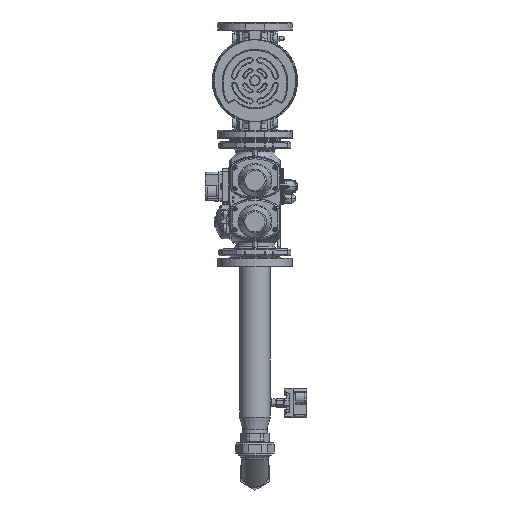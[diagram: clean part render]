
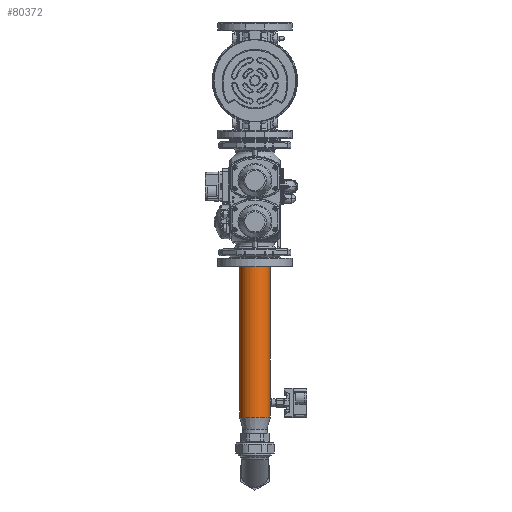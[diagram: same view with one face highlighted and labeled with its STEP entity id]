
A CAD part, front view. The second image highlights one B-rep face of the part: STEP entity #80372.
In plain terms, the highlighted cylindrical face has radius 38.05 mm (diameter 76.1 mm), a full revolution.
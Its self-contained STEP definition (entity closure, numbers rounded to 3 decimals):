
#4587 = CARTESIAN_POINT ( 'NONE',  ( 37.917, -141.819, -507.439 ) ) ;
#7087 = CARTESIAN_POINT ( 'NONE',  ( 38.047, -144.476, -501.026 ) ) ;
#9594 = CARTESIAN_POINT ( 'NONE',  ( 37.892, -148.472, -507.004 ) ) ;
#12061 = CARTESIAN_POINT ( 'NONE',  ( 37.931, -148.014, -507.642 ) ) ;
#14596 = CARTESIAN_POINT ( 'NONE',  ( 38.029, -143.708, -508.795 ) ) ;
#23014 = FACE_OUTER_BOUND ( 'NONE', #204737, .T. ) ;
#39659 = DIRECTION ( 'NONE',  ( 0., -1., 0. ) ) ;
#45442 = CARTESIAN_POINT ( 'NONE',  ( 37.839, -149., -504.74 ) ) ;
#47958 = CARTESIAN_POINT ( 'NONE',  ( 38.047, -145.527, -508.974 ) ) ;
#52941 = CARTESIAN_POINT ( 'NONE',  ( 37.842, -141.026, -505.526 ) ) ;
#63859 = DIRECTION ( 'NONE',  ( 0., -1., 0. ) ) ;
#77526 = ORIENTED_EDGE ( 'NONE', *, *, #436183, .T. ) ;
#80372 = ADVANCED_FACE ( 'NONE', ( #444570, #23014, #94648 ), #485433, .T. ) ;
#80660 = AXIS2_PLACEMENT_3D ( 'NONE', #291090, #334627, #63859 ) ;
#83736 = CARTESIAN_POINT ( 'NONE',  ( 37.917, -141.822, -502.557 ) ) ;
#84354 = CARTESIAN_POINT ( 'NONE',  ( 38.05, -145., -501. ) ) ;
#86277 = CARTESIAN_POINT ( 'NONE',  ( 37.931, -141.988, -502.355 ) ) ;
#91284 = CARTESIAN_POINT ( 'NONE',  ( 38.029, -146.292, -508.794 ) ) ;
#94648 = FACE_OUTER_BOUND ( 'NONE', #457021, .T. ) ;
#106408 = CARTESIAN_POINT ( 'NONE',  ( 37.959, -147.643, -501.986 ) ) ;
#106942 = CARTESIAN_POINT ( 'NONE',  ( 0., -145., -539.957 ) ) ;
#112324 = ORIENTED_EDGE ( 'NONE', *, *, #455287, .T. ) ;
#118334 = VERTEX_POINT ( 'NONE', #278852 ) ;
#122238 = CARTESIAN_POINT ( 'NONE',  ( 37.972, -142.558, -508.179 ) ) ;
#122808 = CARTESIAN_POINT ( 'NONE',  ( 0., -145., -155. ) ) ;
#124718 = CARTESIAN_POINT ( 'NONE',  ( 37.86, -141.205, -506.291 ) ) ;
#127232 = CARTESIAN_POINT ( 'NONE',  ( 37.853, -148.872, -506.038 ) ) ;
#129715 = CARTESIAN_POINT ( 'NONE',  ( 37.839, -141., -504.737 ) ) ;
#132204 = CARTESIAN_POINT ( 'NONE',  ( 37.998, -147.006, -508.47 ) ) ;
#142258 = CARTESIAN_POINT ( 'NONE',  ( 37.931, -148.016, -502.36 ) ) ;
#158406 = DIRECTION ( 'NONE',  ( 0., 0., -1. ) ) ;
#162882 = CARTESIAN_POINT ( 'NONE',  ( 37.958, -147.646, -508.011 ) ) ;
#165364 = CARTESIAN_POINT ( 'NONE',  ( 37.853, -141.129, -503.959 ) ) ;
#167836 = CARTESIAN_POINT ( 'NONE',  ( 37.853, -148.872, -503.962 ) ) ;
#170358 = CARTESIAN_POINT ( 'NONE',  ( 37.86, -148.795, -506.29 ) ) ;
#183530 = VERTEX_POINT ( 'NONE', #454442 ) ;
#189223 = CIRCLE ( 'NONE', #319731, 38.05 ) ;
#201167 = CARTESIAN_POINT ( 'NONE',  ( 37.998, -142.997, -501.528 ) ) ;
#201788 = VERTEX_POINT ( 'NONE', #84354 ) ;
#203679 = CARTESIAN_POINT ( 'NONE',  ( 37.958, -142.356, -501.987 ) ) ;
#204737 = EDGE_LOOP ( 'NONE', ( #112324 ) ) ;
#206172 = CARTESIAN_POINT ( 'NONE',  ( 38.05, -145., -501. ) ) ;
#208672 = CARTESIAN_POINT ( 'NONE',  ( 37.931, -141.988, -507.645 ) ) ;
#211219 = CARTESIAN_POINT ( 'NONE',  ( 37.842, -141.026, -504.476 ) ) ;
#216208 = CARTESIAN_POINT ( 'NONE',  ( 38.009, -146.775, -501.406 ) ) ;
#218739 = CARTESIAN_POINT ( 'NONE',  ( 38.05, -145., -501. ) ) ;
#225122 = EDGE_CURVE ( 'NONE', #118334, #118334, #189223, .T. ) ;
#239481 = CARTESIAN_POINT ( 'NONE',  ( 38.05, -145.267, -509. ) ) ;
#241990 = CARTESIAN_POINT ( 'NONE',  ( 38.05, -144.739, -509. ) ) ;
#244479 = CARTESIAN_POINT ( 'NONE',  ( 37.842, -148.975, -505.522 ) ) ;
#246928 = CARTESIAN_POINT ( 'NONE',  ( 37.88, -141.406, -506.775 ) ) ;
#251971 = CARTESIAN_POINT ( 'NONE',  ( 37.998, -147.009, -501.531 ) ) ;
#259490 = CARTESIAN_POINT ( 'NONE',  ( 38.037, -146.042, -501.129 ) ) ;
#261974 = CARTESIAN_POINT ( 'NONE',  ( 38.029, -146.291, -501.205 ) ) ;
#277708 = CARTESIAN_POINT ( 'NONE',  ( 38.05, -144.736, -501. ) ) ;
#278852 = CARTESIAN_POINT ( 'NONE',  ( 0., -183.05, -155. ) ) ;
#280224 = CARTESIAN_POINT ( 'NONE',  ( 37.959, -142.357, -508.013 ) ) ;
#282742 = CARTESIAN_POINT ( 'NONE',  ( 38.047, -144.477, -508.974 ) ) ;
#287747 = CARTESIAN_POINT ( 'NONE',  ( 38.009, -146.776, -508.593 ) ) ;
#290276 = CARTESIAN_POINT ( 'NONE',  ( 38.05, -145.264, -501. ) ) ;
#291090 = CARTESIAN_POINT ( 'NONE',  ( 0., -145., -155. ) ) ;
#311664 = DIRECTION ( 'NONE',  ( 0., -1., 0. ) ) ;
#316122 = CARTESIAN_POINT ( 'NONE',  ( 38.037, -143.964, -501.128 ) ) ;
#318632 = CARTESIAN_POINT ( 'NONE',  ( 37.842, -148.974, -504.475 ) ) ;
#319731 = AXIS2_PLACEMENT_3D ( 'NONE', #122808, #158406, #311664 ) ;
#321175 = CARTESIAN_POINT ( 'NONE',  ( 37.972, -147.44, -508.18 ) ) ;
#323674 = CARTESIAN_POINT ( 'NONE',  ( 38.029, -143.71, -501.205 ) ) ;
#326210 = CARTESIAN_POINT ( 'NONE',  ( 37.88, -141.405, -503.226 ) ) ;
#334627 = DIRECTION ( 'NONE',  ( 0., 0., 1. ) ) ;
#339338 = CIRCLE ( 'NONE', #372167, 38.05 ) ;
#351310 = DIRECTION ( 'NONE',  ( 0., 0., 1. ) ) ;
#357058 = CARTESIAN_POINT ( 'NONE',  ( 37.86, -141.206, -503.707 ) ) ;
#359560 = CARTESIAN_POINT ( 'NONE',  ( 37.892, -141.529, -507.005 ) ) ;
#362075 = CARTESIAN_POINT ( 'NONE',  ( 38.009, -143.226, -501.405 ) ) ;
#364552 = CARTESIAN_POINT ( 'NONE',  ( 37.839, -141., -505.266 ) ) ;
#367094 = CARTESIAN_POINT ( 'NONE',  ( 37.972, -147.441, -501.821 ) ) ;
#372167 = AXIS2_PLACEMENT_3D ( 'NONE', #106942, #351310, #39659 ) ;
#395389 = CARTESIAN_POINT ( 'NONE',  ( 37.88, -148.596, -506.771 ) ) ;
#396631 = B_SPLINE_CURVE_WITH_KNOTS ( 'NONE', 3,
 ( #206172, #277708, #7087, #316122, #323674, #362075, #201167, #433803, #203679, #86277, #83736, #472084, #326210, #357058, #165364, #211219, #129715, #364552, #52941, #477074, #124718, #246928, #359560, #4587, #208672, #280224, #122238, #397907, #482101, #14596, #443782, #282742, #241990, #239481, #47958, #441277, #91284, #287747, #132204, #321175, #162882, #12061, #436297, #9594, #395389, #170358, #127232, #244479, #402948, #45442, #318632, #167836, #474596, #438788, #487138, #494674, #142258, #106408, #367094, #251971, #216208, #261974, #259490, #418075, #290276, #218739 ),
 .UNSPECIFIED., .T., .F.,
 ( 4, 2, 2, 2, 2, 2, 2, 2, 2, 2, 2, 2, 2, 2, 2, 2, 2, 2, 2, 2, 2, 2, 2, 2, 2, 2, 2, 2, 2, 2, 2, 2, 4 ),
 ( 0., 0.001, 0.002, 0.002, 0.003, 0.004, 0.005, 0.005, 0.006, 0.007, 0.008, 0.009, 0.009, 0.01, 0.011, 0.012, 0.013, 0.013, 0.014, 0.015, 0.016, 0.016, 0.017, 0.018, 0.019, 0.02, 0.02, 0.021, 0.022, 0.023, 0.023, 0.024, 0.025 ),
 .UNSPECIFIED. ) ;
#397907 = CARTESIAN_POINT ( 'NONE',  ( 37.998, -142.995, -508.471 ) ) ;
#402948 = CARTESIAN_POINT ( 'NONE',  ( 37.839, -149., -505.262 ) ) ;
#418075 = CARTESIAN_POINT ( 'NONE',  ( 38.047, -145.529, -501.027 ) ) ;
#433803 = CARTESIAN_POINT ( 'NONE',  ( 37.972, -142.562, -501.818 ) ) ;
#436183 = EDGE_CURVE ( 'NONE', #201788, #201788, #396631, .T. ) ;
#436297 = CARTESIAN_POINT ( 'NONE',  ( 37.917, -148.18, -507.441 ) ) ;
#438788 = CARTESIAN_POINT ( 'NONE',  ( 37.88, -148.596, -503.229 ) ) ;
#441277 = CARTESIAN_POINT ( 'NONE',  ( 38.037, -146.038, -508.872 ) ) ;
#443782 = CARTESIAN_POINT ( 'NONE',  ( 38.037, -143.96, -508.871 ) ) ;
#444570 = FACE_BOUND ( 'NONE', #496015, .T. ) ;
#454442 = CARTESIAN_POINT ( 'NONE',  ( 0., -183.05, -539.957 ) ) ;
#455287 = EDGE_CURVE ( 'NONE', #183530, #183530, #339338, .T. ) ;
#457021 = EDGE_LOOP ( 'NONE', ( #457074 ) ) ;
#457074 = ORIENTED_EDGE ( 'NONE', *, *, #225122, .T. ) ;
#472084 = CARTESIAN_POINT ( 'NONE',  ( 37.892, -141.53, -502.993 ) ) ;
#474596 = CARTESIAN_POINT ( 'NONE',  ( 37.86, -148.796, -503.713 ) ) ;
#477074 = CARTESIAN_POINT ( 'NONE',  ( 37.853, -141.128, -506.037 ) ) ;
#482101 = CARTESIAN_POINT ( 'NONE',  ( 38.009, -143.227, -508.595 ) ) ;
#485433 = CYLINDRICAL_SURFACE ( 'NONE', #80660, 38.05 ) ;
#487138 = CARTESIAN_POINT ( 'NONE',  ( 37.892, -148.471, -502.995 ) ) ;
#494674 = CARTESIAN_POINT ( 'NONE',  ( 37.917, -148.182, -502.562 ) ) ;
#496015 = EDGE_LOOP ( 'NONE', ( #77526 ) ) ;
